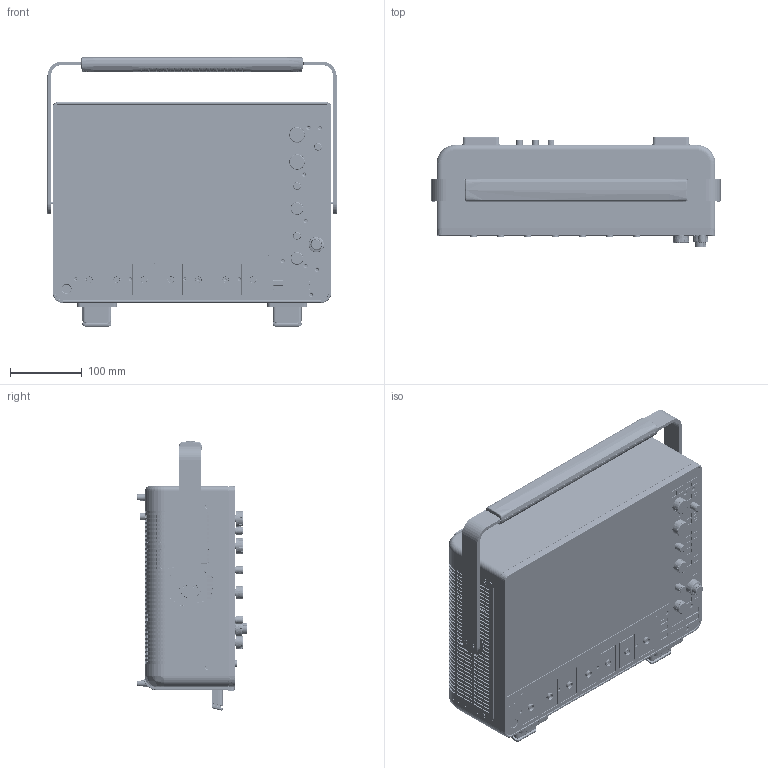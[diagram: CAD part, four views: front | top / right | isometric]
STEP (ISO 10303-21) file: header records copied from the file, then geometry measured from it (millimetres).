
FILE_DESCRIPTION((''),'2;1');
FILE_NAME('CUST_CAD_MSO46B_BOX_ONLY_ASM','2024-01-22T16:07:42',('u604423'),(''),'CREO PARAMETRIC BY PTC INC, 2022284','CREO PARAMETRIC BY PTC INC, 2022284','');
FILE_SCHEMA(('CONFIG_CONTROL_DESIGN','SHAPE_APPEARANCE_LAYERS_GROUPS'));
Products named in the file (49): CUST_CAD_MSO46B_BOX_ONLY_1_1; CUST_CAD_MSO46B_BOX_ONLY_1_2; CUST_CAD_MSO46B_BOX_ONLY_1_3; CUST_CAD_MSO46B_BOX_ONLY_1_4; CUST_CAD_MSO46B_BOX_ONLY_1_5; CUST_CAD_MSO46B_BOX_ONLY_1_6; CUST_CAD_MSO46B_BOX_ONLY_1_7; CUST_CAD_MSO46B_BOX_ONLY_1_8; CUST_CAD_MSO46B_BOX_ONLY_1_9; CUST_CAD_MSO46B_BOX_ONLY_1_10; CUST_CAD_MSO46B_BOX_ONLY_1_11; CUST_CAD_MSO46B_BOX_ONLY_1_12; CUST_CAD_MSO46B_BOX_ONLY_1_13; CUST_CAD_MSO46B_BOX_ONLY_1_14; CUST_CAD_MSO46B_BOX_ONLY_1_15; CUST_CAD_MSO46B_BOX_ONLY_1_16; CUST_CAD_MSO46B_BOX_ONLY_1_17; CUST_CAD_MSO46B_BOX_ONLY_1_18; CUST_CAD_MSO46B_BOX_ONLY_1_19; CUST_CAD_MSO46B_BOX_ONLY_1_20; CUST_CAD_MSO46B_BOX_ONLY_1_21; CUST_CAD_MSO46B_BOX_ONLY_1_22; CUST_CAD_MSO46B_BOX_ONLY_1_23; CUST_CAD_MSO46B_BOX_ONLY_1_24; CUST_CAD_MSO46B_BOX_ONLY_1_25; CUST_CAD_MSO46B_BOX_ONLY_1_26; CUST_CAD_MSO46B_BOX_ONLY_1_27; CUST_CAD_MSO46B_BOX_ONLY_1_28; CUST_CAD_MSO46B_BOX_ONLY_1_29; CUST_CAD_MSO46B_BOX_ONLY_1_30; CUST_CAD_MSO46B_BOX_ONLY_1_31; CUST_CAD_MSO46B_BOX_ONLY_1_32; CUST_CAD_MSO46B_BOX_ONLY_1_33; CUST_CAD_MSO46B_BOX_ONLY_1_34; CUST_CAD_MSO46B_BOX_ONLY_1_35; CUST_CAD_MSO46B_BOX_ONLY_1_36; CUST_CAD_MSO46B_BOX_ONLY_1_37; CUST_CAD_MSO46B_BOX_ONLY_1_38; CUST_CAD_MSO46B_BOX_ONLY_1_39; CUST_CAD_MSO46B_BOX_ONLY_1_40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
Assembly tree (48 placements, depth 3):
  CUST_CAD_MSO46B_BOX_ONLY_ASM
    CUST_CAD_MSO46B_BOX_ONLY_1_ASM
      CUST_CAD_MSO46B_BOX_ONLY_1_1
      CUST_CAD_MSO46B_BOX_ONLY_1_2
      CUST_CAD_MSO46B_BOX_ONLY_1_3
      CUST_CAD_MSO46B_BOX_ONLY_1_4
      CUST_CAD_MSO46B_BOX_ONLY_1_5
      CUST_CAD_MSO46B_BOX_ONLY_1_6
      CUST_CAD_MSO46B_BOX_ONLY_1_7
      CUST_CAD_MSO46B_BOX_ONLY_1_8
      CUST_CAD_MSO46B_BOX_ONLY_1_9
      CUST_CAD_MSO46B_BOX_ONLY_1_10
      CUST_CAD_MSO46B_BOX_ONLY_1_11
      CUST_CAD_MSO46B_BOX_ONLY_1_12
      CUST_CAD_MSO46B_BOX_ONLY_1_13
      CUST_CAD_MSO46B_BOX_ONLY_1_14
      CUST_CAD_MSO46B_BOX_ONLY_1_15
      CUST_CAD_MSO46B_BOX_ONLY_1_16
      CUST_CAD_MSO46B_BOX_ONLY_1_17
      CUST_CAD_MSO46B_BOX_ONLY_1_18
      CUST_CAD_MSO46B_BOX_ONLY_1_19
      CUST_CAD_MSO46B_BOX_ONLY_1_20
      CUST_CAD_MSO46B_BOX_ONLY_1_21
      CUST_CAD_MSO46B_BOX_ONLY_1_22
      CUST_CAD_MSO46B_BOX_ONLY_1_23
      CUST_CAD_MSO46B_BOX_ONLY_1_24
      CUST_CAD_MSO46B_BOX_ONLY_1_25
      CUST_CAD_MSO46B_BOX_ONLY_1_26
      CUST_CAD_MSO46B_BOX_ONLY_1_27
      CUST_CAD_MSO46B_BOX_ONLY_1_28
      CUST_CAD_MSO46B_BOX_ONLY_1_29
      CUST_CAD_MSO46B_BOX_ONLY_1_30
      CUST_CAD_MSO46B_BOX_ONLY_1_31
      CUST_CAD_MSO46B_BOX_ONLY_1_32
      CUST_CAD_MSO46B_BOX_ONLY_1_33
      CUST_CAD_MSO46B_BOX_ONLY_1_34
      CUST_CAD_MSO46B_BOX_ONLY_1_35
      CUST_CAD_MSO46B_BOX_ONLY_1_36
      CUST_CAD_MSO46B_BOX_ONLY_1_37
      CUST_CAD_MSO46B_BOX_ONLY_1_38
      CUST_CAD_MSO46B_BOX_ONLY_1_39
      CUST_CAD_MSO46B_BOX_ONLY_1_40
      CUST_CAD_MSO46B_BOX_ONLY_1_41
      CUST_CAD_MSO46B_BOX_ONLY_1_42
      CUST_CAD_MSO46B_BOX_ONLY_1_43
      CUST_CAD_MSO46B_BOX_ONLY_1_44
      CUST_CAD_MSO46B_BOX_ONLY_1_45
      CUST_CAD_MSO46B_BOX_ONLY_1_46
      CUST_CAD_MSO46B_BOX_ONLY_1_47
Bounding box: 404.1 x 153.92 x 376.32 mm (x, y, z)
Volume: 114762.6 mm3; surface area: 1660686.9 mm2
Topology: 25 solids, 402 shells, 20605 faces, 57956 edges, 37557 vertices
Faces by surface type: plane 11133, cylinder 5161, bspline 2092, cone 1227, torus 594, sphere 340, extrusion 58
Entity records: 950372 total; most frequent: CARTESIAN_POINT 311531, ORIENTED_EDGE 113018, DIRECTION 94145, EDGE_CURVE 57577, VERTEX_POINT 37515, VECTOR 32393, LINE 32335, AXIS2_PLACEMENT_3D 30876
